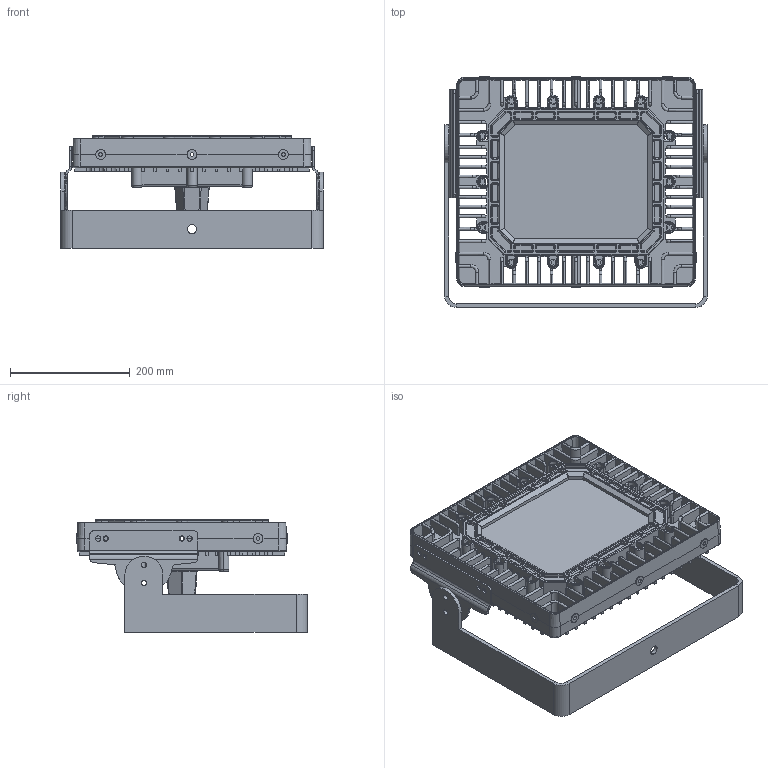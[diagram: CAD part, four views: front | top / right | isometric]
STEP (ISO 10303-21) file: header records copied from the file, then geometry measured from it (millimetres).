
FILE_DESCRIPTION (( 'STEP AP214' ), '1' );
FILE_NAME ('EPL-LED-150W-RT.STEP', '2015-03-16T21:12:18', ( '' ), ( '' ), 'SwSTEP 2.0', 'SolidWorks 2015', '' );
FILE_SCHEMA (( 'AUTOMOTIVE_DESIGN' ));
Length unit declared in the file: inch
Products named in the file (2): EPL-LED-150W-RT assembly; EPL-LED-150W-RT
Assembly tree (1 placements, depth 2):
  EPL-LED-150W-RT
    EPL-LED-150W-RT assembly
Bounding box: 438.15 x 385.44 x 187.83 mm (x, y, z)
Surface area: 967736.5 mm2 (no closed solid volume)
Topology: 0 solids, 11 shells, 2247 faces, 6538 edges, 4109 vertices
Faces by surface type: cylinder 953, plane 933, torus 324, bspline 29, cone 8
Entity records: 106483 total; most frequent: CARTESIAN_POINT 18766, DIRECTION 12225, ORIENTED_EDGE 12139, EDGE_CURVE 6532, AXIS2_PLACEMENT_3D 4160, VERTEX_POINT 4109, LINE 3905, VECTOR 3905
